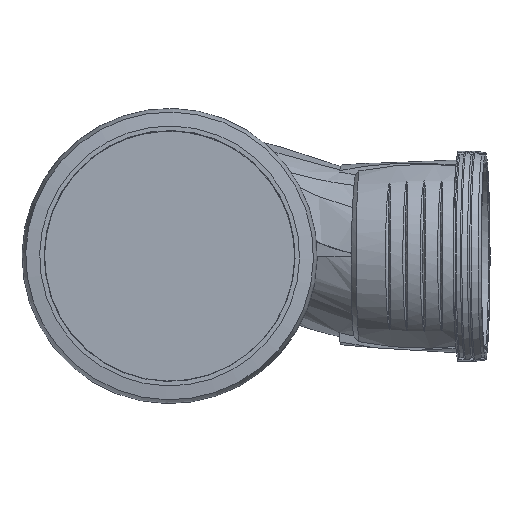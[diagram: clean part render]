
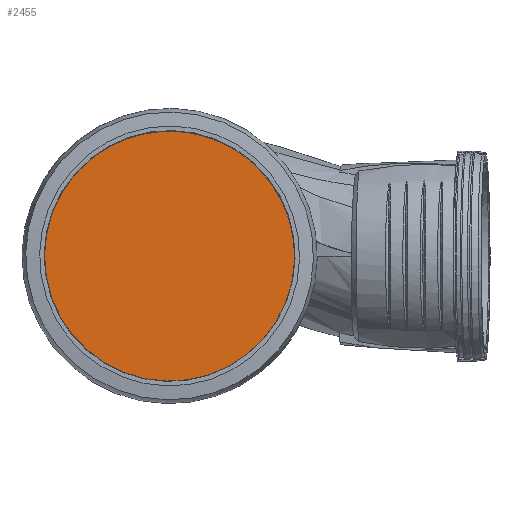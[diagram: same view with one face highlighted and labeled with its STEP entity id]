
A CAD part, top view. The second image highlights one B-rep face of the part: STEP entity #2455.
In plain terms, the highlighted planar face has unit normal (0, 0, 1).
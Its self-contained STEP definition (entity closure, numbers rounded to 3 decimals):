
#137=PLANE('',#2699);
#255=FACE_OUTER_BOUND('',#411,.T.);
#411=EDGE_LOOP('',(#1982,#1983));
#682=CIRCLE('',#2700,55.5);
#683=CIRCLE('',#2701,55.5);
#1073=VERTEX_POINT('',#12039);
#1074=VERTEX_POINT('',#12040);
#1404=EDGE_CURVE('',#1073,#1074,#682,.T.);
#1405=EDGE_CURVE('',#1074,#1073,#683,.T.);
#1982=ORIENTED_EDGE('',*,*,#1404,.T.);
#1983=ORIENTED_EDGE('',*,*,#1405,.T.);
#2455=ADVANCED_FACE('',(#255),#137,.T.);
#2699=AXIS2_PLACEMENT_3D('',#12038,#3139,#3140);
#2700=AXIS2_PLACEMENT_3D('',#12041,#3141,#3142);
#2701=AXIS2_PLACEMENT_3D('',#12042,#3143,#3144);
#3139=DIRECTION('center_axis',(0.,0.,1.));
#3140=DIRECTION('ref_axis',(1.,0.,0.));
#3141=DIRECTION('center_axis',(0.,0.,1.));
#3142=DIRECTION('ref_axis',(-1.,0.,0.));
#3143=DIRECTION('center_axis',(0.,0.,1.));
#3144=DIRECTION('ref_axis',(-1.,0.,0.));
#12038=CARTESIAN_POINT('Origin',(0.,0.,35.5));
#12039=CARTESIAN_POINT('',(-55.5,0.,35.5));
#12040=CARTESIAN_POINT('',(26.608,-48.706,35.5));
#12041=CARTESIAN_POINT('Origin',(0.,0.,35.5));
#12042=CARTESIAN_POINT('Origin',(0.,0.,35.5));
